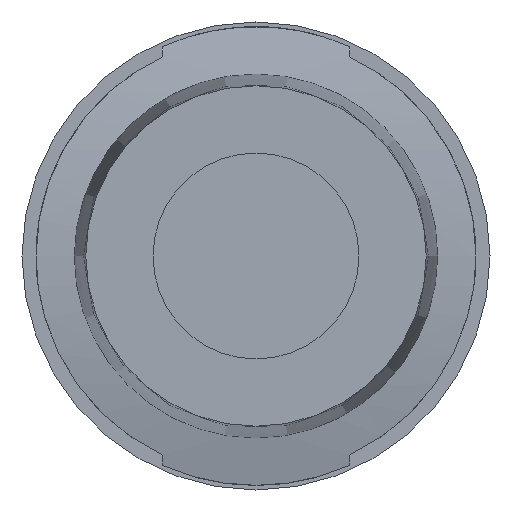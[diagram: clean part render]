
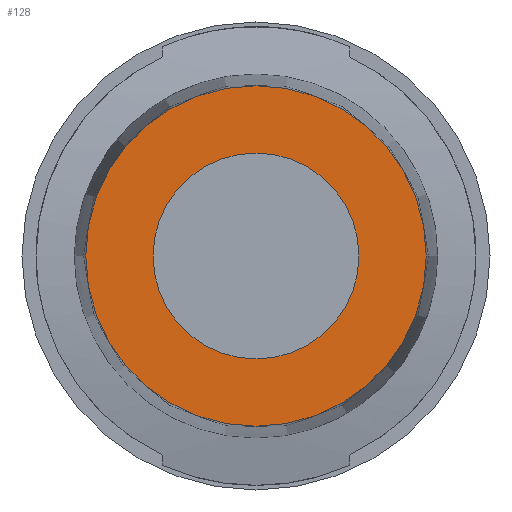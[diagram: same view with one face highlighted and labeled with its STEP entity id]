
A CAD part, left-side view. The second image highlights one B-rep face of the part: STEP entity #128.
In plain terms, the highlighted planar face has unit normal (-1, 0, 0).
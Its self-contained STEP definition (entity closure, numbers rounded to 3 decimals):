
#128 = ADVANCED_FACE( '', ( #304, #305 ), #306, .T. );
#304 = FACE_OUTER_BOUND( '', #542, .T. );
#305 = FACE_BOUND( '', #543, .T. );
#306 = PLANE( '', #544 );
#542 = EDGE_LOOP( '', ( #905 ) );
#543 = EDGE_LOOP( '', ( #906 ) );
#544 = AXIS2_PLACEMENT_3D( '', #907, #908, #909 );
#905 = ORIENTED_EDGE( '', *, *, #2059, .F. );
#906 = ORIENTED_EDGE( '', *, *, #2014, .T. );
#907 = CARTESIAN_POINT( '', ( -28.7, -1.828, -0.34 ) );
#908 = DIRECTION( '', ( -1., 0., 0. ) );
#909 = DIRECTION( '', ( 0., 0.707, 0.707 ) );
#2014 = EDGE_CURVE( '', #2281, #2281, #2282, .T. );
#2059 = EDGE_CURVE( '', #2348, #2348, #2349, .T. );
#2281 = VERTEX_POINT( '', #2893 );
#2282 = CIRCLE( '', #2894, 2.2 );
#2348 = VERTEX_POINT( '', #3202 );
#2349 = CIRCLE( '', #3203, 3.638 );
#2893 = CARTESIAN_POINT( '', ( -28.7, 0., -2.2 ) );
#2894 = AXIS2_PLACEMENT_3D( '', #4886, #4887, #4888 );
#3202 = CARTESIAN_POINT( '', ( -28.7, 3.638, 0. ) );
#3203 = AXIS2_PLACEMENT_3D( '', #4927, #4928, #4929 );
#4886 = CARTESIAN_POINT( '', ( -28.7, 0., 0. ) );
#4887 = DIRECTION( '', ( 1., 0., 0. ) );
#4888 = DIRECTION( '', ( 0., 0., -1. ) );
#4927 = CARTESIAN_POINT( '', ( -28.7, 0., 0. ) );
#4928 = DIRECTION( '', ( 1., 0., 0. ) );
#4929 = DIRECTION( '', ( 0., 1., 0. ) );
